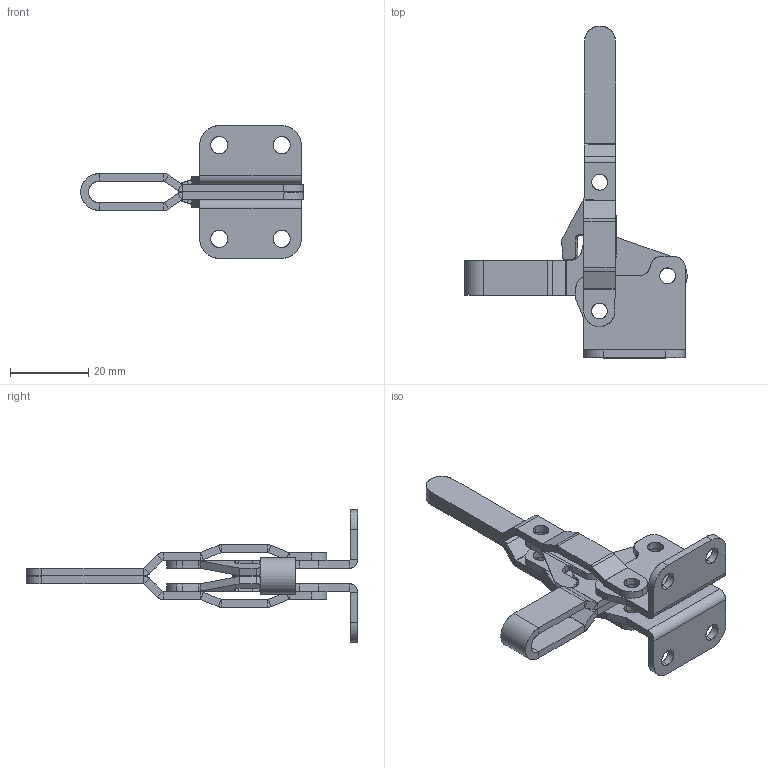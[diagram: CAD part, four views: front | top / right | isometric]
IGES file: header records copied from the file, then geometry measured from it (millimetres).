
Start section: SolidWorks IGES file using analytic representation for surfaces
Global section: file name: D:\GH Files\GH-SW-FILES\GH1\GH-10751-B, 10752-A, 10752-B\10752B\GH-10752-B.IGS; native system: SolidWorks 2006 by SolidWorks Corporation; preprocessor: SolidWorks 2006 by SolidWorks Corporation; author: Administrator; date: 060825.162512; units: millimetre
Bounding box: 56.96 x 85 x 34 mm (x, y, z)
Surface area: 11598.3 mm2 (no closed solid volume)
Topology: 0 solids, 0 shells, 297 faces, 3350 edges, 3350 vertices
Faces by surface type: bspline 184, revolution 113
